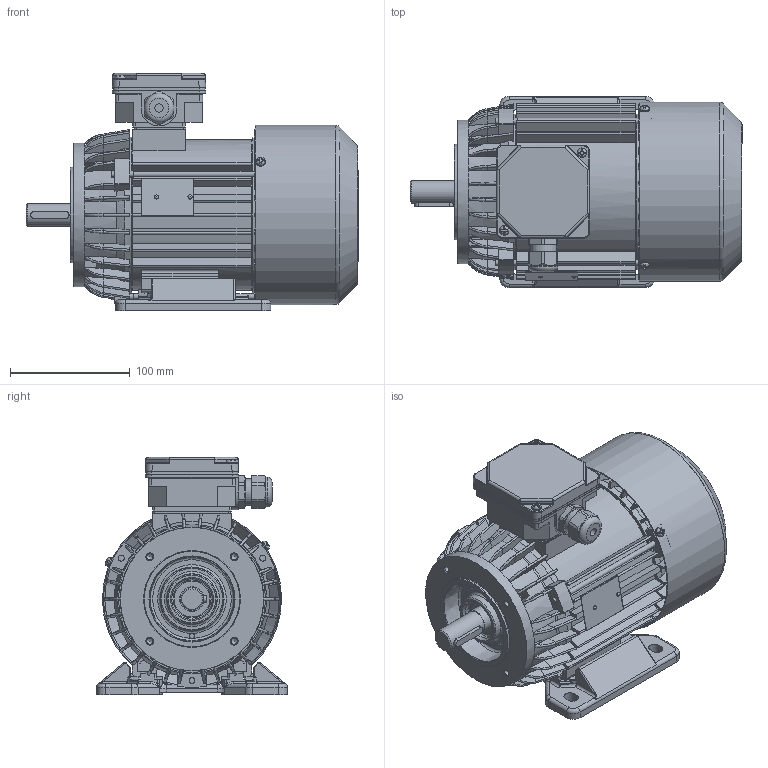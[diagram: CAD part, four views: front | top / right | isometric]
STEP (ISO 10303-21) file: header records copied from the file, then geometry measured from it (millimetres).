
FILE_DESCRIPTION( ( 'Unknown' ), '1' );
FILE_NAME( 'G:/Poczta Tk-1/STP/w.m.80/Sh80/SLh80-.B2.stp', 'Unknown', ( 'K. Szlosek' ), ( 'BESEL S.A.' ), 'PSStep 17.0.49', 'Unknown', ' ' );
FILE_SCHEMA( ( 'AUTOMOTIVE_DESIGN { 1 0 10303 214 1 1 1 1 }' ) );
Length unit declared in the file: millimetre
Products named in the file (30): skrznka zaciskowa trójfazowa ; K4-2820 Uszczelka nr 2 Sh71,80; Dławnica M20x1,5; K2-0859 Podstawa skrzynki 6-cio zaciskowej; K2-0860 Pokrywka skrzynki zaciskowej; Assem1; K1-1257 Kadłub S(E,M)h80-A i B; K3-2964 Osłona przewietrznika Sh80,90; K4-2320 Uszczelka nr 1 Sh71,80; K3-4616 wał standard Sh80-B; K3-6857 Tarcza łożyskowa P S(E,M)h80-B,D; Wkręt samogwintujący M4x8; Wpust A6x6x32; Wkręt samogwintujący M4x16; Nitokołek A 2x6; K3-4025 Przewietrznik Sg,h80; Tabliczka znamionowa 32x44; Łożysko 6204; Śruba ściągająca E_M5x130; K1-1261 Tarcza kołnierzowa B14_2 w.m. 80; K1-0437 Łapa Sh80-.. 
Assembly tree (45 placements, depth 3):
  Assem1
    K1-1257 Kadłub S(E,M)h80-A i B
    K3-2964 Osłona przewietrznika Sh80,90
    K4-2320 Uszczelka nr 1 Sh71,80
    K3-4616 wał standard Sh80-B
    K3-6857 Tarcza łożyskowa P S(E,M)h80-B,D
    Wkręt samogwintujący M4x8  x3
    Wpust A6x6x32
    Wkręt samogwintujący M4x16  x2
    Nitokołek A 2x6  x2
    K3-4025 Przewietrznik Sg,h80
    Tabliczka znamionowa 32x44
    Łożysko 6204  x2
    Łożysko 6204  x2
    Łożysko 6204  x2
    Łożysko 6204  x2
    Łożysko 6204  x2
    Łożysko 6204  x2
    Łożysko 6204  x2
    Łożysko 6204  x2
    Łożysko 6204  x2
    Łożysko 6204  x2
    Śruba ściągająca E_M5x130  x3
    K1-1261 Tarcza kołnierzowa B14_2 w.m. 80
    K1-0437 Łapa Sh80-.. 
    skrznka zaciskowa trójfazowa 
      K4-2820 Uszczelka nr 2 Sh71,80
      Dławnica M20x1,5
      K2-0859 Podstawa skrzynki 6-cio zaciskowej
      K2-0860 Pokrywka skrzynki zaciskowej
Bounding box: 277.8 x 160 x 198.5 mm (x, y, z)
Volume: 966632 mm3; surface area: 577709.8 mm2
Topology: 44 solids, 60 shells, 2927 faces, 8214 edges, 5285 vertices
Faces by surface type: plane 1373, cylinder 892, bspline 261, torus 209, cone 156, sphere 36
Full cylindrical faces by diameter (mm): 2 x2, 2.4 x2, 3.7 x11, 4 x7, 4.2 x3, 4.5 x1, 4.6 x3, 4.8 x4, 5 x11, 5.5 x3, 6.5 x4, 7 x1, 8 x9, 18.376 x1, 18.38 x1, 19 x1, 19.3 x1, 19.5 x1, 19.9 x1, 20 x3, 20.3 x2, 20.4 x4, 22.3 x1, 25 x1, 25.5 x1, 26 x2, 26.1 x1, 27 x1, 28.802 x4, 30 x1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
Entity records: 147873 total; most frequent: CARTESIAN_POINT 56345, ORIENTED_EDGE 14788, DIRECTION 13702, EDGE_CURVE 7394, AXIS2_PLACEMENT_3D 5015, VERTEX_POINT 4919, LINE 3672, VECTOR 3672
